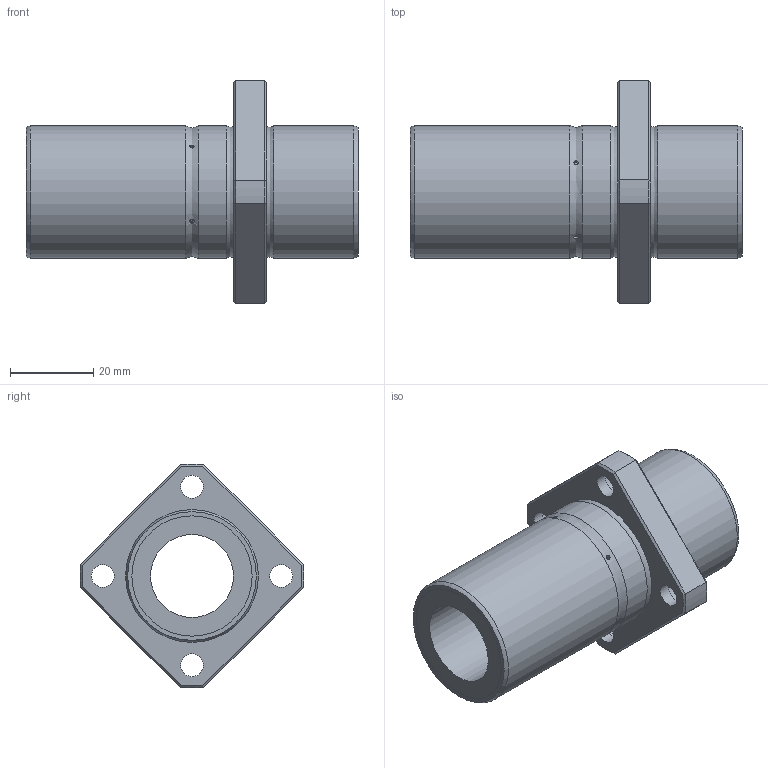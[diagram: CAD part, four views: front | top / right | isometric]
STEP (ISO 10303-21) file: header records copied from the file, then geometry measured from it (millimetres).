
FILE_DESCRIPTION((''),'2;1');
FILE_NAME('D:\製品 (図面)\カタログ用3D\リニアベアリング関連\STEP形式\LFDK-OH\LFDK20-OH.stp','2010-06-03T09:41:32',('Tsuchiya'),(''),'Autodesk Inventor 10','Autodesk Inventor 10','');
FILE_SCHEMA(('AUTOMOTIVE_DESIGN { 1 0 10303 214 1 1 1 1 }'));
Length unit declared in the file: millimetre
Products named in the file (1): LFDK20-OH
Bounding box: 80 x 53.97 x 53.97 mm (x, y, z)
Volume: 44677 mm3; surface area: 16898.9 mm2
Topology: 1 solids, 1 shells, 63 faces, 127 edges, 79 vertices
Faces by surface type: bspline 20, plane 18, cylinder 15, cone 8, torus 2
Full cylindrical faces by diameter (mm): 20 x1, 29 x2, 32 x3
Entity records: 2242 total; most frequent: CARTESIAN_POINT 1095, DIRECTION 208, ORIENTED_EDGE 196, EDGE_LOOP 110, EDGE_CURVE 98, AXIS2_PLACEMENT_3D 92, VERTEX_POINT 74, FACE_OUTER_BOUND 63
